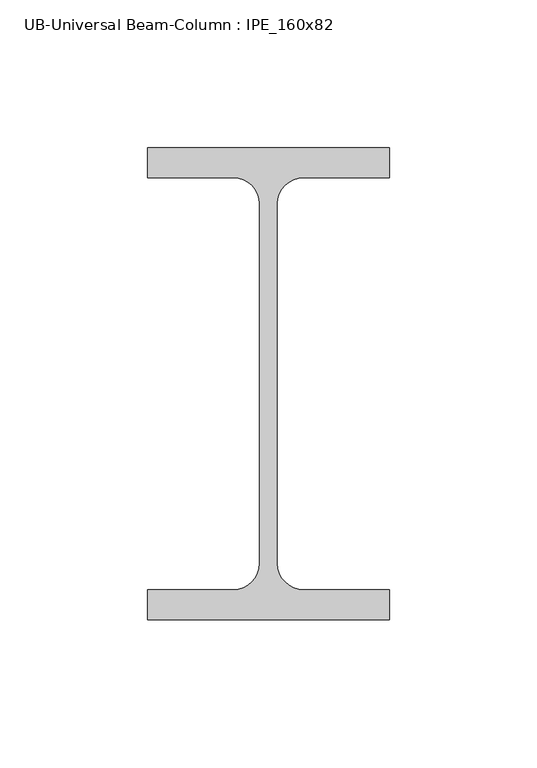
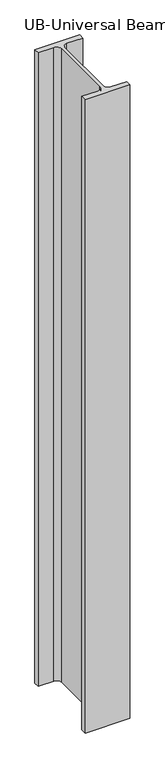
"""IFC4 building model written with IfcOpenShell, lengths in millimetres: column geometry, UB-Universal Beam-Column : IPE_160x82."""

from ifc_helpers import new_model, si_unit, point, frame, frame_2d, origin, place, context, project, spatial, polyline, circle_curve, trimmed, segment, composite_curve, outline, extrude, source, transform, mapped, element, save


def ub_universal_beam_column_ipe_160x82_fe75e69f(model_context):
    return source(origin(), model_context, "Body", "SweptSolid", [
        extrude(outline(composite_curve([segment(polyline([(41.0, 80.0), (41.0, 69.8), (11.9, 69.8)]), True, "CONTINUOUS"), segment(trimmed(circle_curve(frame_2d((11.9, 60.9)), 8.9), [point((11.9, 69.8))], [point((3.0, 60.9))], True, "CARTESIAN"), True, "CONTINUOUS"), segment(polyline([(3.0, 60.9), (3.0, -60.9)]), True, "CONTINUOUS"), segment(trimmed(circle_curve(frame_2d((11.9, -60.9)), 8.9), [point((3.0, -60.9))], [point((11.9, -69.8))], True, "CARTESIAN"), True, "CONTINUOUS"), segment(polyline([(11.9, -69.8), (41.0, -69.8), (41.0, -80.0), (-41.0, -80.0), (-41.0, -69.8), (-11.9, -69.8)]), True, "CONTINUOUS"), segment(trimmed(circle_curve(frame_2d((-11.9, -60.9)), 8.9), [point((-11.9, -69.8))], [point((-3.0, -60.9))], True, "CARTESIAN"), True, "CONTINUOUS"), segment(polyline([(-3.0, -60.9), (-3.0, 60.9)]), True, "CONTINUOUS"), segment(trimmed(circle_curve(frame_2d((-11.9, 60.9)), 8.9), [point((-3.0, 60.9))], [point((-11.9, 69.8))], True, "CARTESIAN"), True, "CONTINUOUS"), segment(polyline([(-11.9, 69.8), (-41.0, 69.8), (-41.0, 80.0), (41.0, 80.0)]), True, "CONTINUOUS")], self_intersect=False)), frame((0.0, 0.0, 4940.0), z_axis=(0.0, 0.0, 1.0), x_axis=(1.0, 0.0, 0.0)), (0.0, 0.0, 1.0), 1230.0),
    ])


if __name__ == "__main__":
    model = new_model("IFC4")
    model_context = context("Model", 3, world=origin())
    ifc_project = project(units=[si_unit("LENGTHUNIT", "METRE", prefix="MILLI")], contexts=[model_context])
    site = spatial("IfcSite", under=ifc_project)
    building = spatial("IfcBuilding", under=site)
    placement = place(None, origin())
    ub_universal_beam_column_ipe_160x82_shape = ub_universal_beam_column_ipe_160x82_fe75e69f(model_context)
    element("IfcColumn", 1, ObjectType="UB-Universal Beam-Column : IPE_160x82", at=placement, inside=building, context=model_context, shape_type="MappedRepresentation", body=[
        mapped(ub_universal_beam_column_ipe_160x82_shape, transform((0.0, 0.0, 0.0), x_axis=(1.0, 0.0, 0.0), y_axis=(0.0, 1.0, 0.0), z_axis=(0.0, 0.0, 1.0))),
    ])
    save(model, "model.ifc")
